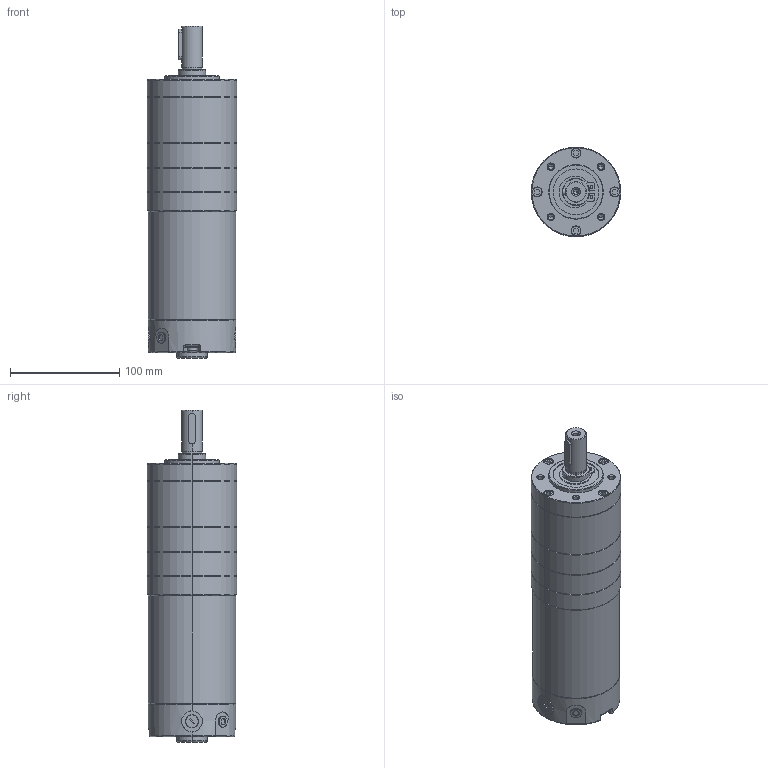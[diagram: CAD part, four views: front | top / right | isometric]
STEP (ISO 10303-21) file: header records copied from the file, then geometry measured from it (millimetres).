
FILE_DESCRIPTION (( 'STEP AP203' ), '1' );
FILE_NAME ('82ZPN有刷三级减速.STEP', '2021-07-17T08:20:51', ( '' ), ( '' ), 'SwSTEP 2.0', 'SolidWorks 2021', '' );
FILE_SCHEMA (( 'CONFIG_CONTROL_DESIGN' ));
Length unit declared in the file: millimetre
Products named in the file (1): 82ZPN有刷三级减速
Bounding box: 82 x 82 x 304.2 mm (x, y, z)
Volume: 1307450.4 mm3; surface area: 82280.9 mm2
Topology: 1 solids, 1 shells, 319 faces, 734 edges, 445 vertices
Faces by surface type: plane 128, cylinder 109, cone 56, torus 18, bspline 4, sphere 4
Entity records: 9457 total; most frequent: CARTESIAN_POINT 2125, DIRECTION 1593, ORIENTED_EDGE 1432, EDGE_CURVE 716, AXIS2_PLACEMENT_3D 596, VERTEX_POINT 441, LINE 401, VECTOR 401
